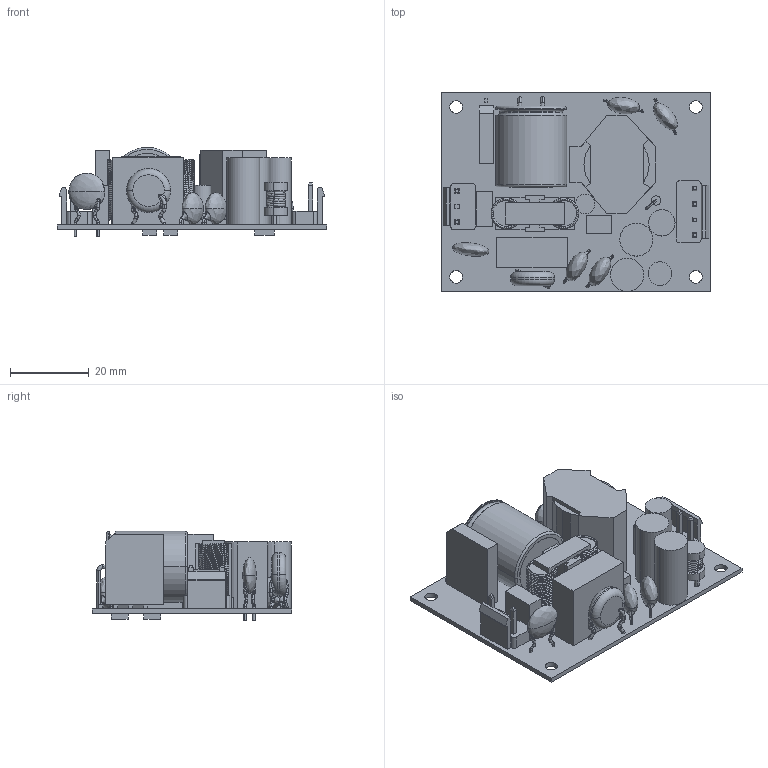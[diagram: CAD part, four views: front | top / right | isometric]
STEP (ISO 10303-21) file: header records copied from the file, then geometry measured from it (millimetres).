
FILE_DESCRIPTION (( 'STEP AP203' ), '1' );
FILE_NAME ('CFM41SXXX-T-1130805.STEP', '2024-08-06T03:06:13', ( 'cincon' ), ( '' ), 'SwSTEP 2.0', 'SolidWorks 2020', '' );
FILE_SCHEMA (( 'CONFIG_CONTROL_DESIGN' ));
Length unit declared in the file: millimetre
Products named in the file (10): 電容(18X21.5); CFM41SXXX-T-1130805; CFM40M UZ1 990210; 電感; CFM70M 3PINｴ｡ｮy(ｵL2PIN)2020.12.11; CFM40M UZ2 990210; CFM70M 4PIN插座2020.12.11; CFM41S_PCB-T; CFM40M CY1 990210; 電感-雙線圈
Assembly tree (12 placements, depth 2):
  CFM41SXXX-T-1130805
    CFM41S_PCB-T
    CFM40M CY1 990210  x4
    CFM40M UZ2 990210
    電感
    CFM40M UZ1 990210
    CFM70M 4PIN插座2020.12.11
    CFM70M 3PINｴ｡ｮy(ｵL2PIN)2020.12.11
    電容(18X21.5)
    電感-雙線圈
Bounding box: 68.58 x 50.8 x 22.69 mm (x, y, z)
Volume: 26378 mm3; surface area: 20150.9 mm2
Topology: 12 solids, 12 shells, 544 faces, 1721 edges, 1132 vertices
Faces by surface type: plane 253, cylinder 129, bspline 98, torus 64
Entity records: 57616 total; most frequent: CARTESIAN_POINT 43439, ORIENTED_EDGE 3102, DIRECTION 2200, EDGE_CURVE 1551, VERTEX_POINT 1030, AXIS2_PLACEMENT_3D 771, EDGE_LOOP 697, VECTOR 658
